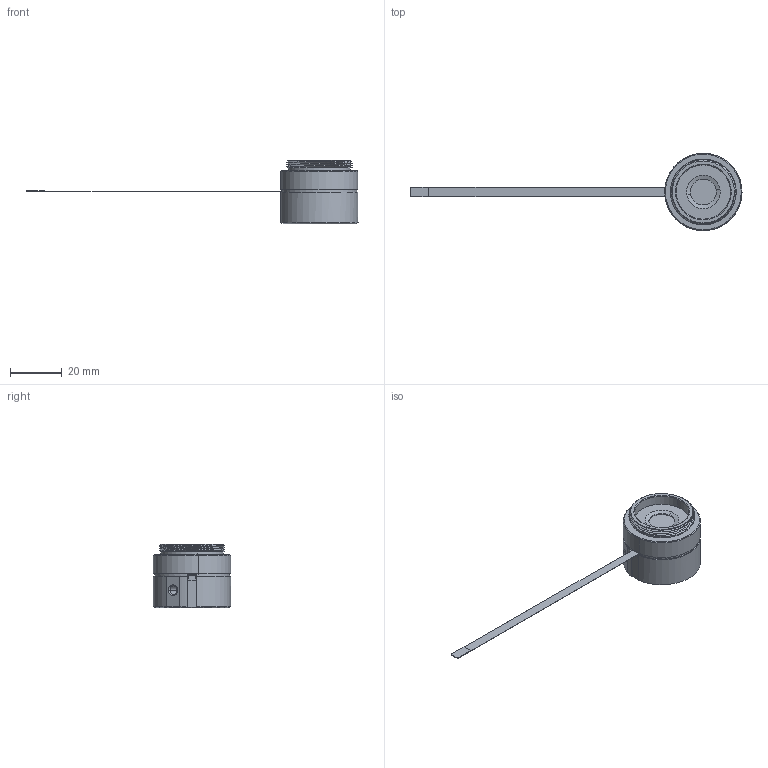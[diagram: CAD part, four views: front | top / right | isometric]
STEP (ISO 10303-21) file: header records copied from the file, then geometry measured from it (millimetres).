
FILE_DESCRIPTION (( 'STEP AP214' ), '1' );
FILE_NAME ('EL-10-30-C_140304.STEP', '2014-03-04T10:17:06', ( '' ), ( '' ), 'SwSTEP 2.0', 'SolidWorks 2013', '' );
FILE_SCHEMA (( 'AUTOMOTIVE_DESIGN' ));
Length unit declared in the file: millimetre
Products named in the file (1): EL-10-30-C_140304
Bounding box: 128.35 x 29.9 x 24.6 mm (x, y, z)
Volume: 11132.7 mm3; surface area: 8388.5 mm2
Topology: 9 solids, 9 shells, 227 faces, 555 edges, 355 vertices
Faces by surface type: cylinder 98, plane 63, cone 37, bspline 29
Entity records: 12883 total; most frequent: CARTESIAN_POINT 6717, ORIENTED_EDGE 1098, DIRECTION 958, EDGE_CURVE 549, AXIS2_PLACEMENT_3D 367, VERTEX_POINT 355, EDGE_LOOP 250, ADVANCED_FACE 227
